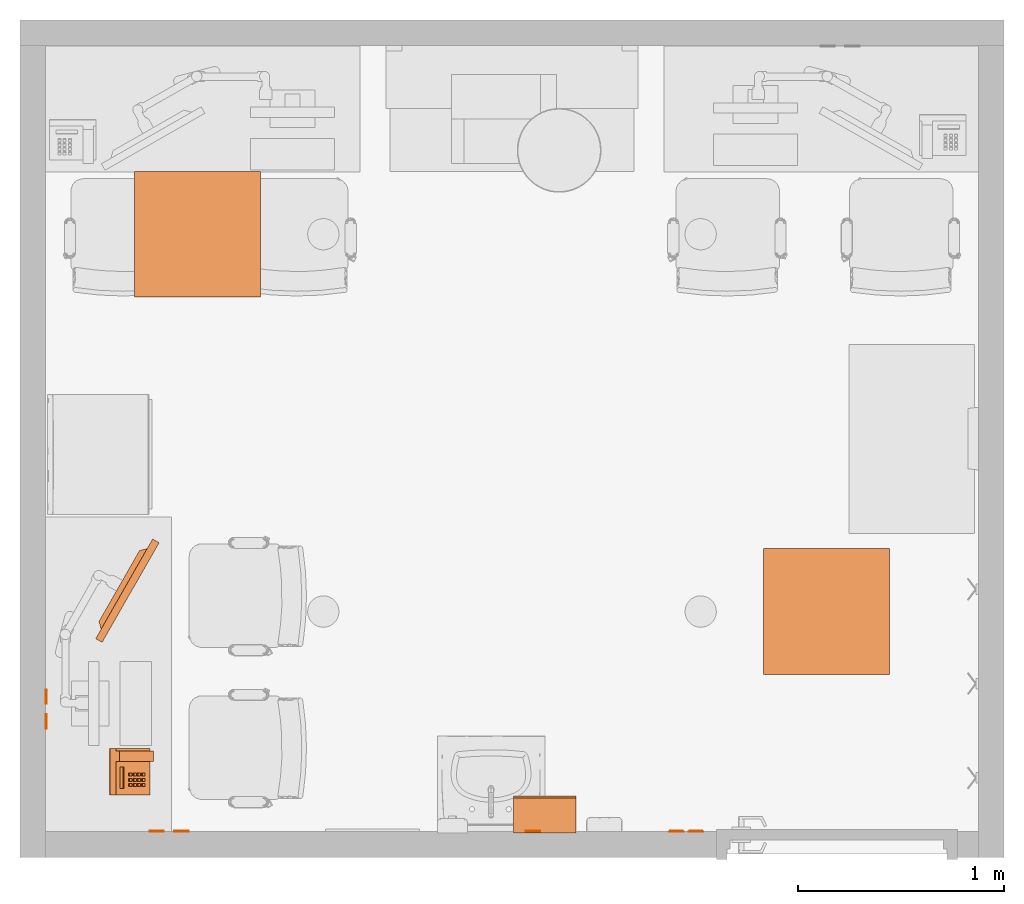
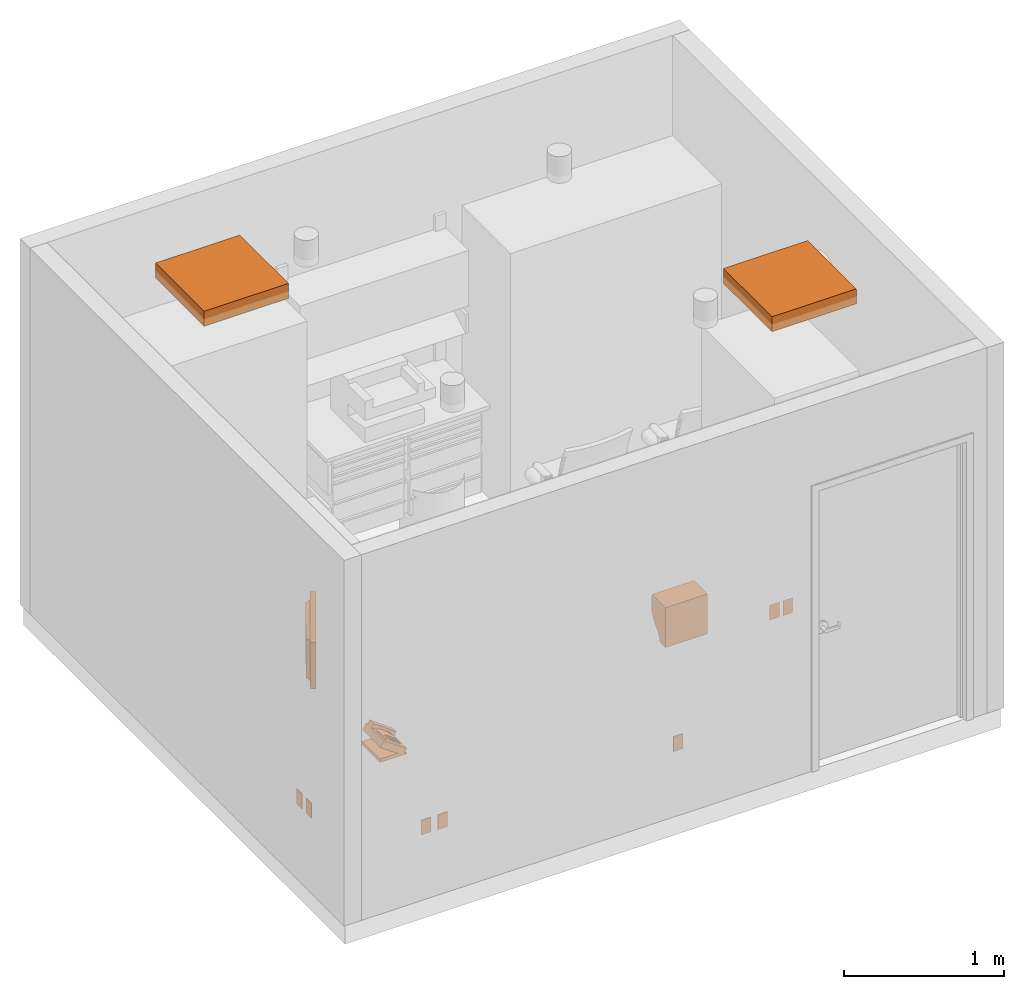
# One storey, part 8 of 15: 12 proxies.
"""IFC2X3 building model written with IfcOpenShell, lengths in feet."""

from ifc_helpers import new_model, entity, si_unit, converted_unit, derived_unit, direction, frame, origin, origin_2d_with_axis, place, context, subcontext, project, spatial, polyline, rectangle, outline, extrude, faceted_brep, source, transform, mapped, material, material_list, type_object, type_shapes, element, save


model = new_model("IFC2X3")

# Units and contexts
model_context = context("Model", 3, precision=0.0001, world=origin(), true_north=direction((6.12303176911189e-17, 1.0)))
body_context = subcontext(model_context, "Body", "Model", "MODEL_VIEW")
ifc_project = project(units=[converted_unit("LENGTHUNIT", "FOOT", entity("IfcRatioMeasure", 0.3048), si_unit("LENGTHUNIT", "METRE"), dimensions=[1, 0, 0, 0, 0, 0, 0]), converted_unit("AREAUNIT", "SQUARE FOOT", entity("IfcRatioMeasure", 0.09290304), si_unit("AREAUNIT", "SQUARE_METRE"), dimensions=[2, 0, 0, 0, 0, 0, 0]), converted_unit("VOLUMEUNIT", "CUBIC FOOT", entity("IfcRatioMeasure", 0.028316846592), si_unit("VOLUMEUNIT", "CUBIC_METRE"), dimensions=[3, 0, 0, 0, 0, 0, 0]), converted_unit("PLANEANGLEUNIT", "DEGREE", entity("IfcRatioMeasure", 0.0174532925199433), si_unit("PLANEANGLEUNIT", "RADIAN"), dimensions=[0, 0, 0, 0, 0, 0, 0]), si_unit("MASSUNIT", "GRAM", prefix="KILO"), derived_unit("MASSDENSITYUNIT", [(si_unit("MASSUNIT", "GRAM", prefix="KILO"), 1), (si_unit("LENGTHUNIT", "METRE"), -3)]), si_unit("TIMEUNIT", "SECOND"), si_unit("FREQUENCYUNIT", "HERTZ"), si_unit("THERMODYNAMICTEMPERATUREUNIT", "DEGREE_CELSIUS"), derived_unit("THERMALTRANSMITTANCEUNIT", [(si_unit("MASSUNIT", "GRAM", prefix="KILO"), 1), (si_unit("THERMODYNAMICTEMPERATUREUNIT", "KELVIN"), -1), (si_unit("TIMEUNIT", "SECOND"), -3)]), derived_unit("VOLUMETRICFLOWRATEUNIT", [(si_unit("LENGTHUNIT", "METRE"), 3), (si_unit("TIMEUNIT", "SECOND"), -1)]), si_unit("ELECTRICCURRENTUNIT", "AMPERE"), si_unit("ELECTRICVOLTAGEUNIT", "VOLT"), si_unit("POWERUNIT", "WATT"), si_unit("FORCEUNIT", "NEWTON"), si_unit("ILLUMINANCEUNIT", "LUX"), si_unit("LUMINOUSFLUXUNIT", "LUMEN"), si_unit("LUMINOUSINTENSITYUNIT", "CANDELA"), derived_unit("USERDEFINED", [(si_unit("MASSUNIT", "GRAM", prefix="KILO"), -1), (si_unit("LENGTHUNIT", "METRE"), -2), (si_unit("TIMEUNIT", "SECOND"), 3), (si_unit("LUMINOUSFLUXUNIT", "LUMEN"), 1)]), derived_unit("LINEARVELOCITYUNIT", [(si_unit("LENGTHUNIT", "METRE"), 1), (si_unit("TIMEUNIT", "SECOND"), -1)]), si_unit("PRESSUREUNIT", "PASCAL"), derived_unit("USERDEFINED", [(si_unit("LENGTHUNIT", "METRE"), -2), (si_unit("MASSUNIT", "GRAM", prefix="KILO"), 1), (si_unit("TIMEUNIT", "SECOND"), -2)])], contexts=[model_context])

# Site, building, storey, space
site_placement = place(None, origin())
site = spatial("IfcSite", under=ifc_project, at=site_placement, Name="Default", CompositionType="ELEMENT")
building_placement = place(site_placement, origin())
building = spatial("IfcBuilding", under=site, at=building_placement, Name="EYE CLINIC:  OPTHALMOLOGY AND OPTOMETRY SERVICES (Ch. 233)", CompositionType="ELEMENT")
storey_placement = place(building_placement, origin())
storey = spatial("IfcBuildingStorey", under=building, at=storey_placement, Name="DATUM", CompositionType="ELEMENT", Elevation=0.0)
space_placement = place(storey_placement, origin())
space = spatial("IfcSpace", under=storey, at=space_placement, Name="(OPLV2)", CompositionType="ELEMENT", InteriorOrExteriorSpace="INTERNAL")

# Proxies
building_element_proxy_type_1 = type_object("IfcBuildingElementProxyType", Name="24\" x 24\"", PredefinedType="NOTDEFINED")
shared_shape_1 = source(origin(), body_context, "Body", "SweptSolid", [
    extrude(rectangle(XDim=2.00000000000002, YDim=2.00000000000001, at=origin_2d_with_axis()), frame((0.0, 0.0, 8.0), z_axis=(0.0, 0.0, 1.0), x_axis=(0.0, 1.0, 0.0)), (0.0, 0.0, 1.0), 0.375),
])
type_shapes(building_element_proxy_type_1, [shared_shape_1])
proxy_1_placement = place(space_placement, frame((337.223102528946, 8.30762568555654, 1.0)))
element("IfcBuildingElementProxy", 1, at=proxy_1_placement, inside=space, type_object=building_element_proxy_type_1, Name="Supply Diffuser:24\" x 24\"", ObjectType="24\" x 24\"", context=body_context, shape_type="MappedRepresentation", body=[
    mapped(shared_shape_1, transform((0.0, 0.0, 0.0), scale=1.0)),
])
building_element_proxy_type_2 = type_object("IfcBuildingElementProxyType", Name="24\" x 24\"", PredefinedType="NOTDEFINED")
shared_shape_2 = source(origin(), body_context, "Body", "SweptSolid", [
    extrude(rectangle(XDim=2.0, YDim=2.0, at=origin_2d_with_axis()), frame((0.0, 0.0, 8.0)), (0.0, 0.0, 1.0), 0.375),
])
type_shapes(building_element_proxy_type_2, [shared_shape_2])
proxy_2_placement = place(space_placement, frame((347.223102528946, 2.30762568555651, 1.0)))
element("IfcBuildingElementProxy", 2, at=proxy_2_placement, inside=space, type_object=building_element_proxy_type_2, Name="Return Register:24\" x 24\"", ObjectType="24\" x 24\"", context=body_context, shape_type="MappedRepresentation", body=[
    mapped(shared_shape_2, transform((0.0, 0.0, 0.0), scale=1.0)),
])
building_element_proxy_type_3 = type_object("IfcBuildingElementProxyType", Name="A5082 - Dispenser, Paper Towel, Sensor, Hands Free", PredefinedType="NOTDEFINED")
shared_shape_3 = source(origin(), body_context, "Body", "SweptSolid", [
    extrude(outline(polyline([(-0.394840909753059, -0.5716804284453), (0.162901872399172, -0.5716804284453), (0.181242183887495, -0.466986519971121), (0.189922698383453, -0.373421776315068), (0.189954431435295, -0.2899834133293), (0.182348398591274, -0.215668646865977), (0.168115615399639, -0.149474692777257), (0.148267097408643, -0.0903987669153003), (0.123813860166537, -0.0374380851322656), (0.095766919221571, 0.0104101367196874), (0.0651372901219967, 0.0541486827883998), (0.0329359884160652, 0.0947803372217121), (0.000174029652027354, 0.133307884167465), (-0.0321375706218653, 0.1707341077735), (-0.0629877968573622, 0.208061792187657), (-0.0913656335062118, 0.246293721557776), (-0.116260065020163, 0.2864326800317), (-0.136660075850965, 0.329481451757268), (-0.151554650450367, 0.376442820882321), (-0.159932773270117, 0.4283195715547), (-0.394840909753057, 0.428319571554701), (-0.394840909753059, -0.5716804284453)])), frame((0.0, -0.394840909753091, 0.428319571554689), z_axis=(1.0, 0.0, 0.0), x_axis=(0.0, -1.0, 0.0)), (0.0, 0.0, 1.0), 1.0),
])
type_shapes(building_element_proxy_type_3, [shared_shape_3])
proxy_3_placement = place(space_placement, frame((343.243935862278, -1.21255348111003, 4.0), z_axis=(0.0, 0.0, 1.0), x_axis=(-1.0, 0.0, 0.0)))
element("IfcBuildingElementProxy", 3, at=proxy_3_placement, inside=space, type_object=building_element_proxy_type_3, Name="A5082 - Dispenser, Paper Towel, Sensor, Hands Free:A5082 - Dispenser, Paper Towel, Sensor, Hands Free", ObjectType="A5082 - Dispenser, Paper Towel, Sensor, Hands Free", context=body_context, shape_type="MappedRepresentation", body=[
    mapped(shared_shape_3, transform((0.0, 0.0, 0.0), scale=1.0)),
])
building_element_proxy_type_4 = type_object("IfcBuildingElementProxyType", Name="M1800 - Computer with Double Flat Panel Monitors", PredefinedType="NOTDEFINED")
shared_shape_4 = source(origin(), body_context, "Body", "SweptSolid", [
    extrude(outline(polyline([(-0.648704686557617, -0.0446704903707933), (0.648704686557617, -0.0446704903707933), (0.738045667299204, 0.0446704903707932), (-0.738045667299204, 0.0446704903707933), (-0.648704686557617, -0.0446704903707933)])), frame((0.0, 0.0446704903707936, 0.255437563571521), z_axis=(0.0, 0.0, 1.0), x_axis=(-1.0, 0.0, 0.0)), (0.0, 0.0, 1.0), 0.999999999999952),
    extrude(rectangle(XDim=1.825, YDim=0.118992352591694, at=origin_2d_with_axis()), frame((-0.000550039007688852, -0.0594961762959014, 0.172104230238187), z_axis=(0.0, 0.0, 1.0), x_axis=(-1.0, 0.0, 0.0)), (0.0, 0.0, 1.0), 1.16666666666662),
])
type_shapes(building_element_proxy_type_4, [shared_shape_4])
proxy_4_placement = place(space_placement, frame((336.056266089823, 2.66929797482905, 3.25), z_axis=(0.0, 0.0, 1.0), x_axis=(0.496171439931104, 0.868224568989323, 0.0)))
element("IfcBuildingElementProxy", 4, at=proxy_4_placement, inside=space, type_object=building_element_proxy_type_4, Name="M1800 - Monitor, Computer:M1800 - Computer with Double Flat Panel Monitors", ObjectType="M1800 - Computer with Double Flat Panel Monitors", context=body_context, shape_type="MappedRepresentation", body=[
    mapped(shared_shape_4, transform((0.0, 0.0, 0.0), scale=1.0)),
])
ifc_material_1 = material(Name="Plastic - White")
building_element_proxy_type_5 = type_object("IfcBuildingElementProxyType", Name="Single", PredefinedType="NOTDEFINED", material=ifc_material_1)
shared_shape_5 = source(origin(), body_context, "Body", "Brep", [
    faceted_brep([(0.0156250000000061, 0.0156249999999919, 0.359375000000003), (0.213541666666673, 0.0156249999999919, 0.359375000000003), (0.213541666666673, 0.0156249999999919, 0.0156250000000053), (0.0156250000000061, 0.0156249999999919, 0.0156250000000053), (0.0, 0.0, 0.375), (0.0, 0.0, 0.0), (0.229166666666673, 0.0, 0.0), (0.229166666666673, 0.0, 0.375)], [[[0, 1, 2, 3]], [[4, 5, 6, 7]], [[4, 7, 1, 0]], [[7, 6, 2, 1]], [[6, 5, 3, 2]], [[5, 4, 0, 3]]]),
])
type_shapes(building_element_proxy_type_5, [shared_shape_5])
for number, where, name in (
    (5, (345.035602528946, -1.19237431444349, 3.8125), "Switch-Single:Single"),
    (6, (344.723102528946, -1.19237431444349, 3.8125), "Switch-Single:Single"),
):
    element("IfcBuildingElementProxy", number, at=place(space_placement, frame(where)), inside=space, type_object=building_element_proxy_type_5, material=ifc_material_1, Name=name, ObjectType="Single", context=body_context, shape_type="MappedRepresentation", body=[
        mapped(shared_shape_5, transform((0.0, 0.0, 0.0), scale=1.0)),
    ])
ifc_material_2 = material(Name="Plastic - Gray,Dark")
ifc_material_list_1 = material_list([ifc_material_1, ifc_material_2])
ifc_material_list_2 = material_list([ifc_material_1, ifc_material_2])
building_element_proxy_type_6 = type_object("IfcBuildingElementProxyType", Name="UXX15 - Telephone, Desk, Low Vision", PredefinedType="NOTDEFINED", material=ifc_material_list_2)
shared_shape_6 = source(origin(), body_context, "Body", "Brep", [
    faceted_brep([(0.0390625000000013, 0.261320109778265, 0.451787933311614), (0.0390625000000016, 0.225161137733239, 0.400147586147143), (0.039062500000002, 0.0904130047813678, 0.494499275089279), (0.0390625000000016, 0.163563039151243, 0.598968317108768), (0.0390625, 0.699689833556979, 0.205455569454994), (0.0390625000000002, 0.629478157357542, 0.109798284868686), (0.0390625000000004, 0.538332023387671, 0.176698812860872), (0.0390625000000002, 0.572560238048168, 0.223329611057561), (0.206937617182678, 0.261320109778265, 0.451787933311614), (0.206937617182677, 0.572560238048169, 0.223329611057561), (0.206937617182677, 0.538332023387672, 0.176698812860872), (0.206937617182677, 0.629478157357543, 0.109798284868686), (0.206937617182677, 0.69968983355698, 0.205455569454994), (0.206937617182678, 0.163563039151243, 0.598968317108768), (0.206937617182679, 0.0904130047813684, 0.494499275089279), (0.206937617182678, 0.225161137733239, 0.400147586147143)], [[[0, 1, 2, 3, 4, 5, 6, 7]], [[8, 9, 10, 11, 12, 13, 14, 15]], [[7, 9, 8, 0]], [[6, 10, 9, 7]], [[5, 11, 10, 6]], [[4, 12, 11, 5]], [[3, 13, 12, 4]], [[2, 14, 13, 3]], [[1, 15, 14, 2]], [[0, 8, 15, 1]]]),
    faceted_brep([(0.441995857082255, 0.457472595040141, 0.295395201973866), (0.441995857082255, 0.496153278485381, 0.268310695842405), (0.395120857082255, 0.496153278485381, 0.268310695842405), (0.395120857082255, 0.457472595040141, 0.295395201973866), (0.441995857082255, 0.442535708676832, 0.274063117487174), (0.395120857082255, 0.442535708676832, 0.274063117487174), (0.395120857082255, 0.481216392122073, 0.246978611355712), (0.441995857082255, 0.481216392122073, 0.246978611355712)], [[[0, 1, 2, 3]], [[4, 5, 6, 7]], [[3, 5, 4, 0]], [[2, 6, 5, 3]], [[1, 7, 6, 2]], [[0, 4, 7, 1]]]),
    faceted_brep([(0.441995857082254, 0.525735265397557, 0.247597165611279), (0.441995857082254, 0.564415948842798, 0.220512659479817), (0.395120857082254, 0.564415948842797, 0.220512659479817), (0.395120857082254, 0.525735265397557, 0.247597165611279), (0.441995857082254, 0.510798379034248, 0.226265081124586), (0.395120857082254, 0.510798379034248, 0.226265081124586), (0.395120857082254, 0.549479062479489, 0.199180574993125), (0.441995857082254, 0.549479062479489, 0.199180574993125)], [[[0, 1, 2, 3]], [[4, 5, 6, 7]], [[3, 5, 4, 0]], [[2, 6, 5, 3]], [[1, 7, 6, 2]], [[0, 4, 7, 1]]]),
    faceted_brep([(0.525329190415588, 0.525735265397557, 0.247597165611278), (0.525329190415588, 0.564415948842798, 0.220512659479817), (0.478454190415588, 0.564415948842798, 0.220512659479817), (0.478454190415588, 0.525735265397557, 0.247597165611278), (0.525329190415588, 0.510798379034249, 0.226265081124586), (0.478454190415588, 0.510798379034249, 0.226265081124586), (0.478454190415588, 0.549479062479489, 0.199180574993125), (0.525329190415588, 0.54947906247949, 0.199180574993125)], [[[0, 1, 2, 3]], [[4, 5, 6, 7]], [[3, 5, 4, 0]], [[2, 6, 5, 3]], [[1, 7, 6, 2]], [[0, 4, 7, 1]]]),
    faceted_brep([(0.608662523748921, 0.525735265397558, 0.247597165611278), (0.608662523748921, 0.564415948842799, 0.220512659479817), (0.561787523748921, 0.564415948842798, 0.220512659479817), (0.561787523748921, 0.525735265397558, 0.247597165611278), (0.608662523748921, 0.510798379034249, 0.226265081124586), (0.561787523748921, 0.510798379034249, 0.226265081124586), (0.561787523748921, 0.54947906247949, 0.199180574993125), (0.608662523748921, 0.54947906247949, 0.199180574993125)], [[[0, 1, 2, 3]], [[4, 5, 6, 7]], [[3, 5, 4, 0]], [[2, 6, 5, 3]], [[1, 7, 6, 2]], [[0, 4, 7, 1]]]),
    faceted_brep([(0.608662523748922, 0.457472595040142, 0.295395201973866), (0.608662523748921, 0.496153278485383, 0.268310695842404), (0.561787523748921, 0.496153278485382, 0.268310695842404), (0.561787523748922, 0.457472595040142, 0.295395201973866), (0.608662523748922, 0.442535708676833, 0.274063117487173), (0.561787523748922, 0.442535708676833, 0.274063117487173), (0.561787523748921, 0.481216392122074, 0.246978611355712), (0.608662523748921, 0.481216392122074, 0.246978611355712)], [[[0, 1, 2, 3]], [[4, 5, 6, 7]], [[3, 5, 4, 0]], [[2, 6, 5, 3]], [[1, 7, 6, 2]], [[0, 4, 7, 1]]]),
    faceted_brep([(0.525329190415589, 0.389209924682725, 0.343193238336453), (0.525329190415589, 0.427890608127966, 0.316108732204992), (0.478454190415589, 0.427890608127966, 0.316108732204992), (0.478454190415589, 0.389209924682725, 0.343193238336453), (0.525329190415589, 0.374273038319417, 0.321861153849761), (0.478454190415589, 0.374273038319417, 0.321861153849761), (0.478454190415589, 0.412953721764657, 0.2947766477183), (0.525329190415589, 0.412953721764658, 0.2947766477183)], [[[0, 1, 2, 3]], [[4, 5, 6, 7]], [[3, 5, 4, 0]], [[2, 6, 5, 3]], [[1, 7, 6, 2]], [[0, 4, 7, 1]]]),
    faceted_brep([(0.608662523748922, 0.389209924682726, 0.343193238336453), (0.608662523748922, 0.427890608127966, 0.316108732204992), (0.561787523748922, 0.427890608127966, 0.316108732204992), (0.561787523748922, 0.389209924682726, 0.343193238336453), (0.608662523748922, 0.374273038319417, 0.321861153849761), (0.561787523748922, 0.374273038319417, 0.321861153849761), (0.561787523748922, 0.412953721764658, 0.2947766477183), (0.608662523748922, 0.412953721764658, 0.2947766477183)], [[[0, 1, 2, 3]], [[4, 5, 6, 7]], [[3, 5, 4, 0]], [[2, 6, 5, 3]], [[1, 7, 6, 2]], [[0, 4, 7, 1]]]),
    faceted_brep([(0.525329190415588, 0.457472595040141, 0.295395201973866), (0.525329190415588, 0.496153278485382, 0.268310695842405), (0.478454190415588, 0.496153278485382, 0.268310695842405), (0.478454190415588, 0.457472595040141, 0.295395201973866), (0.525329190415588, 0.442535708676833, 0.274063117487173), (0.478454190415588, 0.442535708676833, 0.274063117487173), (0.478454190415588, 0.481216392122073, 0.246978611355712), (0.525329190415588, 0.481216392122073, 0.246978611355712)], [[[0, 1, 2, 3]], [[4, 5, 6, 7]], [[3, 5, 4, 0]], [[2, 6, 5, 3]], [[1, 7, 6, 2]], [[0, 4, 7, 1]]]),
    faceted_brep([(0.441995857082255, 0.389209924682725, 0.343193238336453), (0.441995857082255, 0.427890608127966, 0.316108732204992), (0.395120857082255, 0.427890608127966, 0.316108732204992), (0.395120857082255, 0.389209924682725, 0.343193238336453), (0.441995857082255, 0.374273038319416, 0.321861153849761), (0.395120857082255, 0.374273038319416, 0.321861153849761), (0.395120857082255, 0.412953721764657, 0.294776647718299), (0.441995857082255, 0.412953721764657, 0.294776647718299)], [[[0, 1, 2, 3]], [[4, 5, 6, 7]], [[3, 5, 4, 0]], [[2, 6, 5, 3]], [[1, 7, 6, 2]], [[0, 4, 7, 1]]]),
    faceted_brep([(0.608662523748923, 0.32094725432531, 0.39099127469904), (0.608662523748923, 0.35962793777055, 0.363906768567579), (0.561787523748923, 0.35962793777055, 0.363906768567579), (0.561787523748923, 0.32094725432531, 0.39099127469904), (0.608662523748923, 0.306010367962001, 0.369659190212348), (0.561787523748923, 0.306010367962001, 0.369659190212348), (0.561787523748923, 0.344691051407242, 0.342574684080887), (0.608662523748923, 0.344691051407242, 0.342574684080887)], [[[0, 1, 2, 3]], [[4, 5, 6, 7]], [[3, 5, 4, 0]], [[2, 6, 5, 3]], [[1, 7, 6, 2]], [[0, 4, 7, 1]]]),
    faceted_brep([(0.525329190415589, 0.320947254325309, 0.39099127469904), (0.525329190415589, 0.35962793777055, 0.363906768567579), (0.478454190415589, 0.35962793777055, 0.363906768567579), (0.478454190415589, 0.320947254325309, 0.39099127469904), (0.525329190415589, 0.306010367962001, 0.369659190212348), (0.478454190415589, 0.306010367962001, 0.369659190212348), (0.478454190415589, 0.344691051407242, 0.342574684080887), (0.525329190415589, 0.344691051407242, 0.342574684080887)], [[[0, 1, 2, 3]], [[4, 5, 6, 7]], [[3, 5, 4, 0]], [[2, 6, 5, 3]], [[1, 7, 6, 2]], [[0, 4, 7, 1]]]),
    faceted_brep([(0.441995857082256, 0.320947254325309, 0.390991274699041), (0.441995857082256, 0.35962793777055, 0.363906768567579), (0.395120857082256, 0.35962793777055, 0.363906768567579), (0.395120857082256, 0.320947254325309, 0.390991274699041), (0.441995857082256, 0.306010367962, 0.369659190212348), (0.395120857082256, 0.306010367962, 0.369659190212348), (0.395120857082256, 0.344691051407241, 0.342574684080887), (0.441995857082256, 0.344691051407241, 0.342574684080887)], [[[0, 1, 2, 3]], [[4, 5, 6, 7]], [[3, 5, 4, 0]], [[2, 6, 5, 3]], [[1, 7, 6, 2]], [[0, 4, 7, 1]]]),
    faceted_brep([(0.0, 0.648788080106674, 0.0), (0.0, 0.0, 0.0), (0.0, 0.0, 0.0887143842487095), (0.0, 0.416666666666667, 0.0887143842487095), (0.0, 0.00709064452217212, 0.375502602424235), (0.0, 0.102686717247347, 0.512027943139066), (0.0, 0.648788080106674, 0.129643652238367), (0.0, 0.584951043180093, 0.0535656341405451), (0.739583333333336, 0.0, 0.0887143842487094), (0.739583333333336, 0.0, 0.0), (0.739583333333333, 0.648788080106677, 0.0), (0.739583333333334, 0.584951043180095, 0.0535656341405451), (0.739583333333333, 0.648788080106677, 0.129643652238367), (0.739583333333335, 0.102686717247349, 0.512027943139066), (0.739583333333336, 0.00709064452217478, 0.375502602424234), (0.739583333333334, 0.416666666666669, 0.0887143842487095), (0.0402709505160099, 0.648788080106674, 0.129643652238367), (0.0402709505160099, 0.631984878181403, 0.109618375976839), (0.206937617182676, 0.631984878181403, 0.109618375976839), (0.206937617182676, 0.648788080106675, 0.129643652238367), (0.0402709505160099, 0.597591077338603, 0.165492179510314), (0.0514355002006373, 0.205080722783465, 0.44033088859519), (0.0519147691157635, 0.582470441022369, 0.176079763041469), (0.0458532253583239, 0.188015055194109, 0.452280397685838), (0.0402709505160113, 0.170949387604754, 0.464229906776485), (0.0402709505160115, 0.102686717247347, 0.512027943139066), (0.0635585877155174, 0.567349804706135, 0.186667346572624), (0.0666865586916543, 0.217573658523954, 0.431583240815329), (0.0819376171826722, 0.230066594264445, 0.422835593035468), (0.0826691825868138, 0.558715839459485, 0.192712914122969), (0.10177977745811, 0.550081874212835, 0.198758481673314), (0.102770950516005, 0.234639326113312, 0.41963373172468), (0.12360428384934, 0.239212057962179, 0.416431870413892), (0.123604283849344, 0.550081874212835, 0.198758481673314), (0.145428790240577, 0.550081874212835, 0.198758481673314), (0.144437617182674, 0.234639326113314, 0.419633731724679), (0.165270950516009, 0.230066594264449, 0.422835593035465), (0.2983751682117, 0.234600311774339, 0.419661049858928), (0.180522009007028, 0.217573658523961, 0.431583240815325), (0.195773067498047, 0.205080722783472, 0.440330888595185), (0.2983751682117, 0.166337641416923, 0.467459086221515), (0.201355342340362, 0.188015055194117, 0.452280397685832), (0.206937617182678, 0.170949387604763, 0.464229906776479), (0.206937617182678, 0.102686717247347, 0.512027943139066), (0.641718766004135, 0.166337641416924, 0.467459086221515), (0.641718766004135, 0.23460031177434, 0.419661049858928), (0.206937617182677, 0.597591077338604, 0.165492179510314), (0.197176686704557, 0.584915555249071, 0.174367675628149), (0.18364997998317, 0.567349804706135, 0.186667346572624), (0.164539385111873, 0.558715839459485, 0.192712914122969), (0.0402709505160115, 0.0877498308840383, 0.490695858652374), (0.206937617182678, 0.0877498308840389, 0.490695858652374), (0.2983751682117, 0.21966342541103, 0.398328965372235), (0.2983751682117, 0.151400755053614, 0.446127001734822), (0.641718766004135, 0.151400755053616, 0.446127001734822), (0.641718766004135, 0.219663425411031, 0.398328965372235), (0.142147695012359, 0.222563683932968, 0.396298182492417), (0.123604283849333, 0.222563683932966, 0.396298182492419), (0.105060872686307, 0.222563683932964, 0.39629818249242), (0.0883538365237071, 0.215973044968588, 0.400912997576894), (0.0716468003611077, 0.209382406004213, 0.405527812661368), (0.0600851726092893, 0.197506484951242, 0.413843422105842), (0.0485235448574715, 0.185630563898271, 0.422159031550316), (0.0442521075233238, 0.170300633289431, 0.432893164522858), (0.0402709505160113, 0.156012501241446, 0.442897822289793), (0.206937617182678, 0.156012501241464, 0.44289782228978), (0.202956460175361, 0.170300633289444, 0.432893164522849), (0.198685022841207, 0.185630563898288, 0.422159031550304), (0.187123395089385, 0.197506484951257, 0.413843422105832), (0.175561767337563, 0.209382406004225, 0.40552781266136), (0.158854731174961, 0.215973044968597, 0.400912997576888), (0.0402709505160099, 0.582654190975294, 0.144160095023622), (0.0500318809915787, 0.569978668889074, 0.153035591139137), (0.0635585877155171, 0.552412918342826, 0.165335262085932), (0.082669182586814, 0.543778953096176, 0.171380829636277), (0.10177977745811, 0.535144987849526, 0.177426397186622), (0.123604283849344, 0.535144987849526, 0.177426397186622), (0.145428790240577, 0.535144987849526, 0.177426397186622), (0.164539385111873, 0.543778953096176, 0.171380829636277), (0.183649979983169, 0.552412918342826, 0.165335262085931), (0.195293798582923, 0.567533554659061, 0.154747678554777), (0.206937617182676, 0.582654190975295, 0.144160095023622)], [[[0, 1, 2, 3, 4, 5, 6, 7]], [[8, 9, 10, 11, 12, 13, 14, 15]], [[10, 0, 7, 11]], [[6, 16, 17, 18, 19, 12, 11, 7]], [[20, 16, 6]], [[20, 6, 21]], [[21, 22, 20]], [[21, 6, 5]], [[5, 23, 21]], [[5, 24, 23]], [[25, 24, 5]], [[21, 26, 22]], [[26, 21, 27]], [[26, 27, 28]], [[28, 29, 26]], [[28, 30, 29]], [[30, 28, 31]], [[30, 31, 32]], [[32, 33, 30]], [[32, 34, 33]], [[34, 32, 35]], [[34, 35, 36]], [[34, 36, 37]], [[37, 36, 38]], [[37, 38, 39]], [[37, 39, 40]], [[40, 39, 41]], [[40, 41, 42]], [[42, 43, 40]], [[40, 43, 44]], [[44, 43, 13]], [[45, 44, 13]], [[13, 12, 45]], [[12, 46, 45]], [[12, 19, 46]], [[37, 46, 47]], [[37, 45, 46]], [[37, 47, 48]], [[37, 48, 49]], [[37, 49, 34]], [[50, 25, 5, 4, 14, 13, 43, 51]], [[14, 4, 3, 15]], [[15, 3, 2, 8]], [[8, 2, 1, 9]], [[9, 1, 0, 10]], [[52, 53, 54, 55]], [[56, 57, 58, 59, 60, 61, 62, 63, 64, 50, 51, 65, 66, 67, 68, 69, 70]], [[17, 71, 72, 73, 74, 75, 76, 77, 78, 79, 80, 81, 18]], [[40, 44, 54, 53]], [[37, 40, 53, 52]], [[45, 37, 52, 55]], [[44, 45, 55, 54]], [[24, 25, 50, 64]], [[16, 20, 71, 17]], [[24, 64, 63]], [[35, 32, 56]], [[35, 70, 36]], [[60, 27, 61]], [[62, 23, 63]], [[23, 62, 21]], [[28, 59, 31]], [[61, 21, 62]], [[58, 31, 59]], [[24, 63, 23]], [[70, 35, 56]], [[68, 67, 39]], [[38, 68, 39]], [[32, 58, 57, 56]], [[70, 69, 36]], [[67, 41, 39]], [[66, 65, 42]], [[69, 38, 36]], [[21, 61, 27]], [[68, 38, 69]], [[66, 42, 41]], [[60, 28, 27]], [[31, 58, 32]], [[28, 60, 59]], [[41, 67, 66]], [[43, 42, 65, 51]], [[46, 19, 18, 81]], [[48, 47, 46, 81, 80, 79]], [[72, 71, 20, 22, 26, 73]], [[79, 78, 77, 34, 49, 48]], [[30, 33, 34, 77, 76, 75]], [[75, 74, 73, 26, 29, 30]]]),
])
type_shapes(building_element_proxy_type_6, [shared_shape_6])
proxy_5_placement = place(space_placement, frame((335.821601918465, 0.133516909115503, 3.0), z_axis=(0.0, 0.0, 1.0), x_axis=(0.0, -1.0, 0.0)))
element("IfcBuildingElementProxy", 7, at=proxy_5_placement, inside=space, type_object=building_element_proxy_type_6, material=ifc_material_list_1, Name="UXX15 - Telephone, Desk, Low Vision:UXX15 - Telephone, Desk, Low Vision", ObjectType="UXX15 - Telephone, Desk, Low Vision", context=body_context, shape_type="MappedRepresentation", body=[
    mapped(shared_shape_6, transform((0.0, 0.0, 0.0), scale=1.0)),
])
building_element_proxy_type_7 = type_object("IfcBuildingElementProxyType", Name="Duplex", PredefinedType="NOTDEFINED")
shared_shape_7 = source(origin(), body_context, "Body", "SweptSolid", [
    extrude(rectangle(XDim=0.0156249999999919, YDim=0.229166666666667, at=origin_2d_with_axis()), frame((0.0, 0.210937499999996, 0.0), z_axis=(0.0, 0.0, 1.0), x_axis=(0.0, 1.0, 0.0)), (0.0, 0.0, 1.0), 0.37500000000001),
])
type_shapes(building_element_proxy_type_7, [shared_shape_7])
proxy_6_placement = place(space_placement, frame((334.603310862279, 0.953459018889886, 1.3125), z_axis=(0.0, 0.0, 1.0), x_axis=(0.0, -1.0, 0.0)))
element("IfcBuildingElementProxy", 8, at=proxy_6_placement, inside=space, type_object=building_element_proxy_type_7, Name="Outlet, Duplex, Wall:Duplex", ObjectType="Duplex", context=body_context, shape_type="MappedRepresentation", body=[
    mapped(shared_shape_7, transform((0.0, 0.0, 0.0), scale=1.0)),
])
for number, where, name in (
    (9, (336.574688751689, -1.39549931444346, 1.3125), "Outlet, Duplex, Wall:Duplex"),
    (10, (342.557214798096, -1.39549931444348, 1.3125), "Outlet, Duplex, Wall:Duplex"),
):
    element("IfcBuildingElementProxy", number, at=place(space_placement, frame(where)), inside=space, type_object=building_element_proxy_type_7, Name=name, ObjectType="Duplex", context=body_context, shape_type="MappedRepresentation", body=[
        mapped(shared_shape_7, transform((0.0, 0.0, 0.0), scale=1.0)),
    ])
building_element_proxy_type_8 = type_object("IfcBuildingElementProxyType", Name="Telephone/Data", PredefinedType="NOTDEFINED")
shared_shape_8 = source(origin(), body_context, "Body", "SweptSolid", [
    extrude(rectangle(XDim=0.0156249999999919, YDim=0.229166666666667, at=origin_2d_with_axis()), frame((0.0, 0.210937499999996, 0.0), z_axis=(0.0, 0.0, 1.0), x_axis=(0.0, 1.0, 0.0)), (0.0, 0.0, 1.0), 0.375),
])
type_shapes(building_element_proxy_type_8, [shared_shape_8])
proxy_7_placement = place(space_placement, frame((334.603310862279, 0.557625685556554, 1.3125), z_axis=(0.0, 0.0, 1.0), x_axis=(0.0, -1.0, 0.0)))
element("IfcBuildingElementProxy", 11, at=proxy_7_placement, inside=space, type_object=building_element_proxy_type_8, Name="Outlet, Communications:Telephone/Data", ObjectType="Telephone/Data", context=body_context, shape_type="MappedRepresentation", body=[
    mapped(shared_shape_8, transform((0.0, 0.0, 0.0), scale=1.0)),
])
proxy_8_placement = place(space_placement, frame((336.970522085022, -1.39549931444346, 1.3125)))
element("IfcBuildingElementProxy", 12, at=proxy_8_placement, inside=space, type_object=building_element_proxy_type_8, Name="Outlet, Communications:Telephone/Data", ObjectType="Telephone/Data", context=body_context, shape_type="MappedRepresentation", body=[
    mapped(shared_shape_8, transform((0.0, 0.0, 0.0), scale=1.0)),
])

save(model, "model.ifc")
